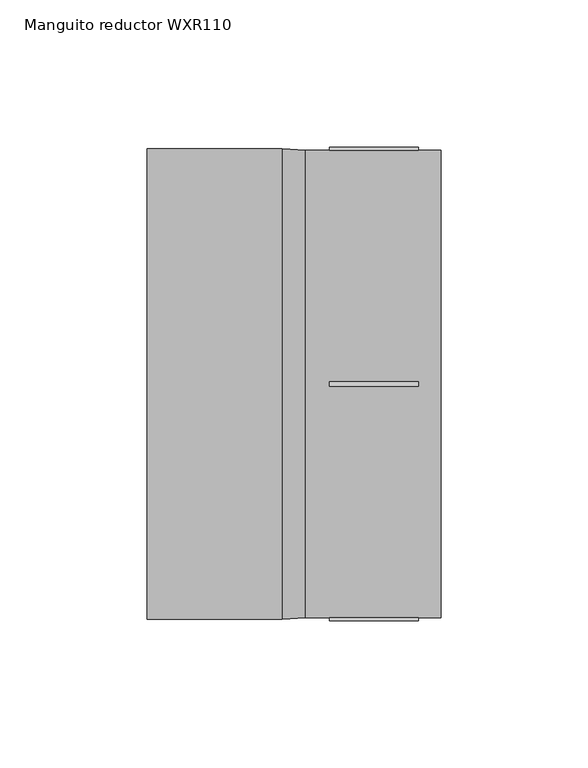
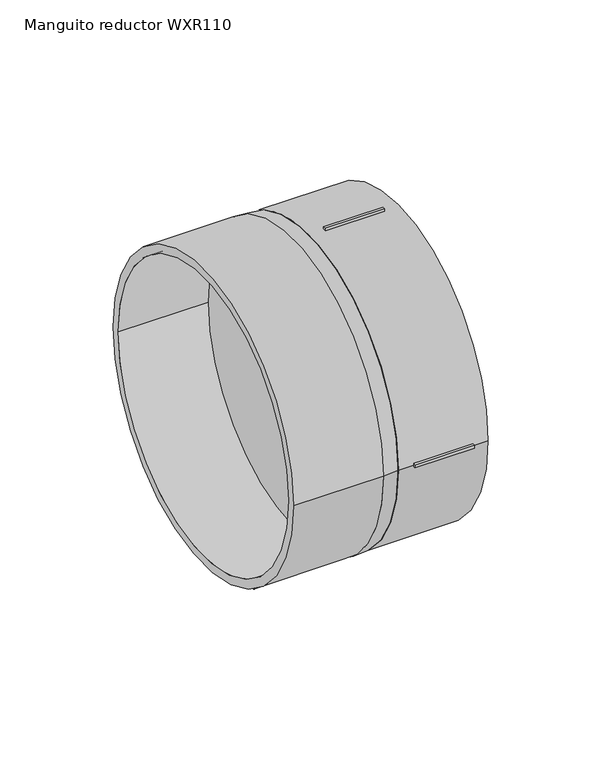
"""IFC4 building model written with IfcOpenShell, lengths in millimetres: pipe fitting geometry, EGB_VASEN_ PPR_Manguito reductor WXR110 : Manguito reductor WXR110."""

from ifc_helpers import new_model, si_unit, point, frame, origin, origin_2d, place, context, project, spatial, polyline, circle_curve, trimmed, segment, composite_curve, outline, extrude, source, transform, mapped, element, save
from ifc_brep_helpers import plane_surface, revolved_surface, advanced_brep


def manguito_reductor_wxr110_94b3a4a0(model_context):
    return source(origin(), model_context, "Body", "SolidModel", [
        extrude(outline(polyline([(12.0, -0.75), (12.0, 0.75), (42.4, 0.75), (42.4, -0.75), (12.0, -0.75)])), frame((0.0, 0.0, 78.5), z_axis=(0.0, 0.0, 1.0), x_axis=(1.0, 0.0, 0.0)), (0.0, 0.0, 1.0), 2.0),
        extrude(outline(polyline([(12.0, -0.75), (12.0, 0.75), (42.4, 0.75), (42.4, -0.75), (12.0, -0.75)])), frame((0.0, 0.0, -80.5), z_axis=(0.0, 0.0, 1.0), x_axis=(1.0, 0.0, 0.0)), (0.0, 0.0, 1.0), 2.0),
        extrude(outline(polyline([(12.0, 78.5), (12.0, 80.5), (42.4, 80.5), (42.4, 78.5), (12.0, 78.5)])), frame((0.0, 0.0, -0.75), z_axis=(0.0, 0.0, 1.0), x_axis=(1.0, 0.0, 0.0)), (0.0, 0.0, 1.0), 1.5),
        extrude(outline(polyline([(12.0, -80.5), (12.0, -78.5), (42.4, -78.5), (42.4, -80.5), (12.0, -80.5)])), frame((0.0, 0.0, -0.75), z_axis=(0.0, 0.0, 1.0), x_axis=(1.0, 0.0, 0.0)), (0.0, 0.0, 1.0), 1.5),
        extrude(outline(composite_curve([segment(trimmed(circle_curve(origin_2d(), 79.5), [point((-79.5, 0.0))], [point((79.5, 0.0))], False, "CARTESIAN"), True, "CONTINUOUS"), segment(trimmed(circle_curve(origin_2d(), 79.5), [point((79.5, 0.0))], [point((-79.5, 0.0))], False, "CARTESIAN"), True, "CONTINUOUS")], self_intersect=False), holes=[composite_curve([segment(trimmed(circle_curve(origin_2d(), 62.5), [point((-62.5, 0.0))], [point((62.5, 0.0))], True, "CARTESIAN"), True, "CONTINUOUS"), segment(trimmed(circle_curve(origin_2d(), 62.5), [point((62.5, 0.0))], [point((-62.5, 0.0))], True, "CARTESIAN"), True, "CONTINUOUS")], self_intersect=False)]), frame((4.0, 0.0, 0.0), z_axis=(1.0, 0.0, 0.0), x_axis=(0.0, 1.0, 0.0)), (0.0, 0.0, 1.0), 46.0),
        extrude(outline(composite_curve([segment(trimmed(circle_curve(origin_2d(), 80.0), [point((-80.0, 0.0))], [point((80.0, 0.0))], False, "CARTESIAN"), True, "CONTINUOUS"), segment(trimmed(circle_curve(origin_2d(), 80.0), [point((80.0, 0.0))], [point((-80.0, 0.0))], False, "CARTESIAN"), True, "CONTINUOUS")], self_intersect=False), holes=[composite_curve([segment(trimmed(circle_curve(origin_2d(), 75.5), [point((-75.5, 0.0))], [point((75.5, 0.0))], True, "CARTESIAN"), True, "CONTINUOUS"), segment(trimmed(circle_curve(origin_2d(), 75.5), [point((75.5, 0.0))], [point((-75.5, 0.0))], True, "CARTESIAN"), True, "CONTINUOUS")], self_intersect=False)]), frame((-50.0, 0.0, 0.0), z_axis=(1.0, 0.0, 0.0), x_axis=(0.0, 1.0, 0.0)), (0.0, 0.0, 1.0), 46.0),
        advanced_brep(
        [(4.0, -79.5, 0.0), (4.0, 79.5, 0.0), (-4.0, -80.0, 0.0), (-4.0, 80.0, 0.0)],
        [
            (0, 1, circle_curve(frame((4.0, 0.0, 0.0), z_axis=(1.0, 0.0, 0.0), x_axis=(0.0, -1.0, 0.0)), 79.5)),
            (1, 0, circle_curve(frame((4.0, 0.0, 0.0), z_axis=(1.0, 0.0, 0.0), x_axis=(0.0, 1.0, 0.0)), 79.5)),
            (2, 3, circle_curve(frame((-4.0, 0.0, 0.0), z_axis=(-1.0, 0.0, 0.0), x_axis=(0.0, 1.0, 0.0)), 80.0)),
            (3, 2, circle_curve(frame((-4.0, 0.0, 0.0), z_axis=(-1.0, 0.0, 0.0), x_axis=(0.0, -1.0, 0.0)), 80.0)),
            (3, 1),
            (0, 2),
        ],
        [
            plane_surface(frame((4.0, 0.0, 0.0), z_axis=(1.0, 0.0, 0.0), x_axis=(0.0, 0.0, -1.0))),
            plane_surface(frame((-4.0, 0.0, 0.0), z_axis=(-1.0, 0.0, 0.0), x_axis=(0.0, 0.0, -1.0))),
            revolved_surface(polyline([(4.0, -79.5, 0.0), (-4.0, -80.0, 0.0)]), (1276.0, 0.0, 0.0), (-1.0, 0.0, 0.0)),
            revolved_surface(polyline([(4.0, 79.5, 0.0), (-4.0, 80.0, 0.0)]), (1276.0, 0.0, 0.0), (-1.0, 0.0, 0.0)),
        ],
        [
            (0, [[1, 2]]),
            (1, [[3, 4]]),
            (2, [[-4, 5, -1, 6]]),
            (3, [[-3, -6, -2, -5]]),
        ],
    ),
    ])


if __name__ == "__main__":
    model = new_model("IFC4")
    model_context = context("Model", 3, world=origin())
    ifc_project = project(units=[si_unit("LENGTHUNIT", "METRE", prefix="MILLI")], contexts=[model_context])
    site = spatial("IfcSite", under=ifc_project)
    building = spatial("IfcBuilding", under=site)
    placement = place(None, origin())
    manguito_reductor_wxr110_shape = manguito_reductor_wxr110_94b3a4a0(model_context)
    element("IfcPipeFitting", 1, ObjectType="EGB_VASEN_ PPR_Manguito reductor WXR110 : Manguito reductor WXR110", at=placement, inside=building, context=model_context, shape_type="MappedRepresentation", body=[
        mapped(manguito_reductor_wxr110_shape, transform((0.0, 0.0, 0.0), x_axis=(1.0, 0.0, 0.0), y_axis=(0.0, 1.0, 0.0), z_axis=(0.0, 0.0, 1.0))),
    ])
    save(model, "model.ifc")
